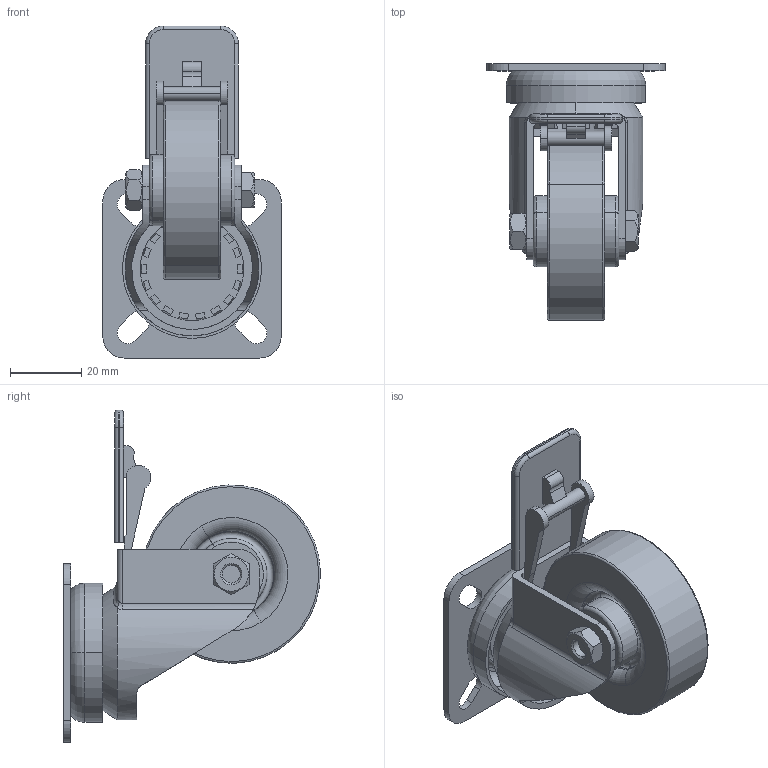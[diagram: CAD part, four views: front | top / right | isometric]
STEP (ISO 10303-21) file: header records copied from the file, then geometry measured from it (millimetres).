
FILE_DESCRIPTION (( 'STEP AP214' ), '1' );
FILE_NAME ('SNSD.30.53.09. Êîëåñî c òîðìîçîì O50 ñ ïëàòôîðìîé(D80).STEP', '2015-12-18T12:29:45', ( '' ), ( '' ), 'SwSTEP 2.0', 'SolidWorks 2014', '' );
FILE_SCHEMA (( 'AUTOMOTIVE_DESIGN' ));
Length unit declared in the file: millimetre
Products named in the file (11): SNSD.30.53.10. Ïîäïèøïèêîâûé óçåë(D81); SNSD.30.50.71. Ãàéêà(H51)23e3D81D80; SNSD.30.50.71. 鍔錓(H51)23e3D81D80; SNSD.30.50.71. 扻錼勷(H51)23e3D81D80; SNSD.30.50.71. Îïîðà(H51)H5023e3D81D80; SNSD.30.53.09. Êîëåñî c òîðìîçîì O50  ñ ïëàòôîðìîé(D80); SNSD.30.53.10. Ïîäïèøïèêîâûé óçåë(D81)_00; SNSD.30.50.71. Ãàéêà(H51)23e3D81D80_00; SNSD.30.50.71. 鍔錓(H51)23e3D81D80_00; SNSD.30.50.71. 扻錼勷(H51)23e3D81D80_00; SNSD.30.50.71. Îïîðà(H51)H5023e3D81D80_00
Assembly tree (5 placements, depth 2):
  SNSD.30.53.10. Ïîäïèøïèêîâûé óçåë(D81)
  SNSD.30.50.71. Ãàéêà(H51)23e3D81D80
  SNSD.30.50.71. 鍔錓(H51)23e3D81D80
  SNSD.30.50.71. 扻錼勷(H51)23e3D81D80
  SNSD.30.50.71. Îïîðà(H51)H5023e3D81D80
Bounding box: 50 x 71.99 x 93.04 mm (x, y, z)
Volume: 50970 mm3; surface area: 30740.5 mm2
Topology: 5 solids, 5 shells, 329 faces, 796 edges, 488 vertices
Faces by surface type: plane 189, cylinder 79, torus 33, cone 20, bspline 8
Entity records: 10902 total; most frequent: CARTESIAN_POINT 2324, DIRECTION 1677, ORIENTED_EDGE 1592, EDGE_CURVE 796, AXIS2_PLACEMENT_3D 609, VERTEX_POINT 488, VECTOR 459, LINE 459
